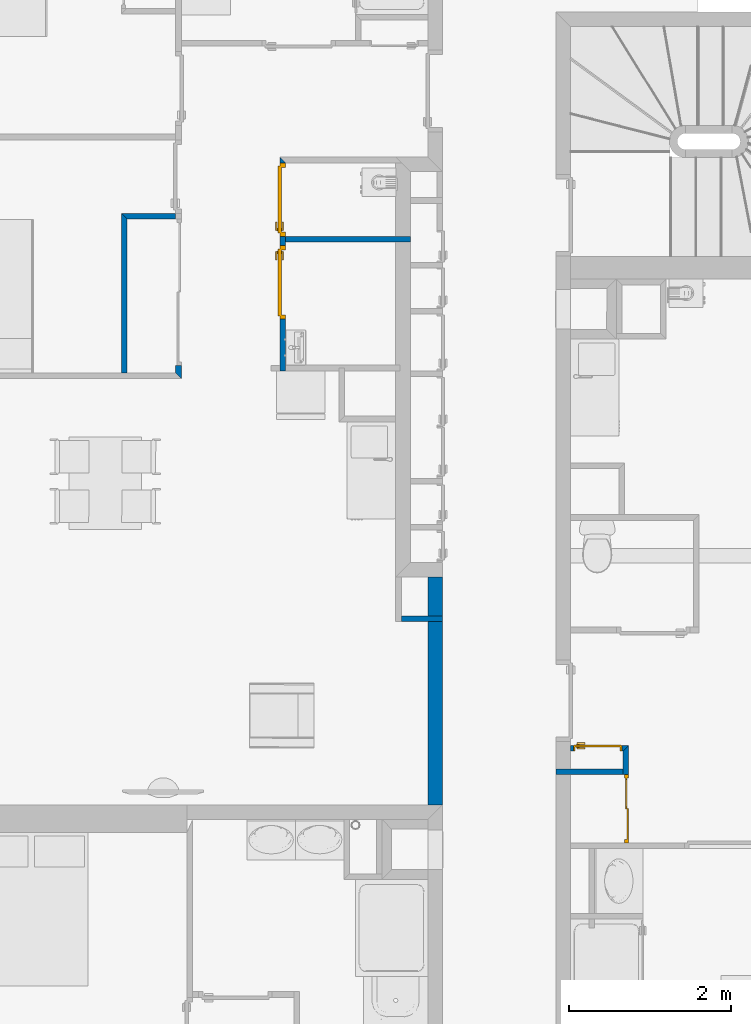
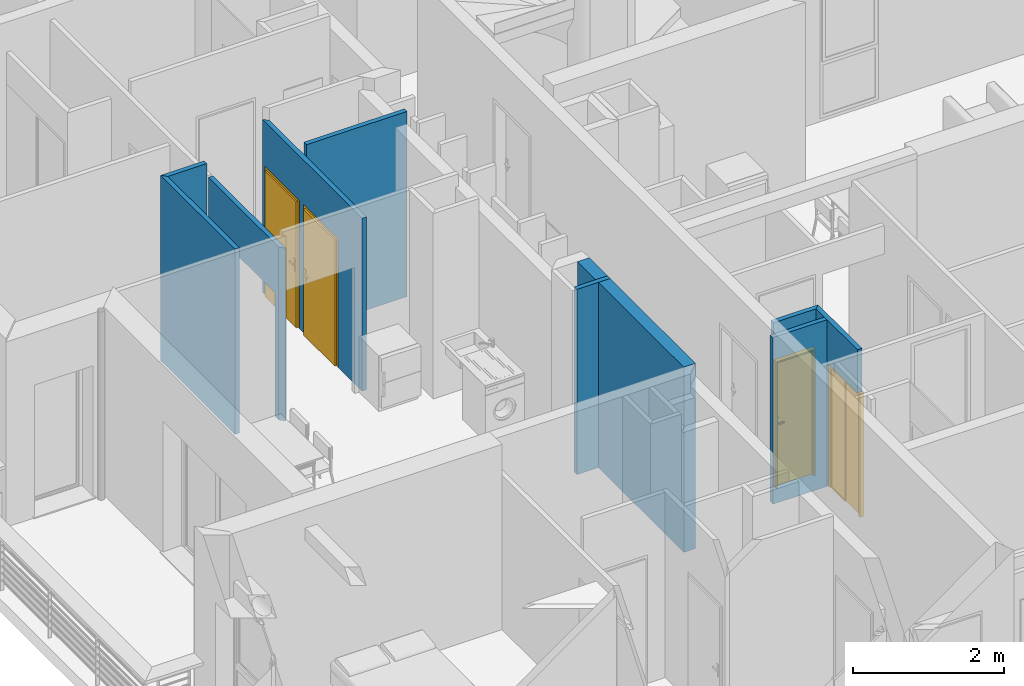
# One storey, part 23 of 165: 10 walls, 4 doors, 5 openings.
"""IFC2X3 building model written with IfcOpenShell, lengths in millimetres."""

from ifc_helpers import new_model, entity, si_unit, converted_unit, derived_unit, money_unit, direction, frame, origin_with_axes, origin_2d_with_axis, place, context, subcontext, project, spatial, polyline, rectangle, outline, extrude, open_shell, faceted_brep, surface_model, source, transform, mapped, material, layer, layer_set, layer_usage, type_object, element, fill, save


model = new_model("IFC2X3")

# Units and contexts
model_context = context("Model", 3, precision=0.01, world=origin_with_axes(), true_north=direction((0.0, 1.0)))
body_context = subcontext(model_context, "Body", "Model", "MODEL_VIEW")
ifc_project = project(units=[si_unit("LENGTHUNIT", "METRE", prefix="MILLI"), si_unit("AREAUNIT", "SQUARE_METRE"), si_unit("VOLUMEUNIT", "CUBIC_METRE"), converted_unit("PLANEANGLEUNIT", "DEGREE", entity("IfcPlaneAngleMeasure", 0.0174532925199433), si_unit("PLANEANGLEUNIT", "RADIAN"), dimensions=[0, 0, 0, 0, 0, 0, 0]), money_unit("USD"), converted_unit("TIMEUNIT", "Year", entity("IfcTimeMeasure", 31557600.0), si_unit("TIMEUNIT", "SECOND"), dimensions=[0, 0, 1, 0, 0, 0, 0]), si_unit("MASSUNIT", "GRAM", prefix="KILO"), si_unit("THERMODYNAMICTEMPERATUREUNIT", "DEGREE_CELSIUS"), si_unit("LUMINOUSINTENSITYUNIT", "LUMEN"), si_unit("ENERGYUNIT", "JOULE", prefix="MEGA"), derived_unit("THERMALCONDUCTANCEUNIT", [(si_unit("POWERUNIT", "WATT"), 1), (si_unit("LENGTHUNIT", "METRE"), -1), (si_unit("THERMODYNAMICTEMPERATUREUNIT", "KELVIN"), -1)]), derived_unit("SPECIFICHEATCAPACITYUNIT", [(si_unit("ENERGYUNIT", "JOULE"), 1), (si_unit("MASSUNIT", "GRAM", prefix="KILO"), -1), (si_unit("THERMODYNAMICTEMPERATUREUNIT", "KELVIN"), -1)]), derived_unit("MASSDENSITYUNIT", [(si_unit("MASSUNIT", "GRAM", prefix="KILO"), 1), (si_unit("VOLUMEUNIT", "CUBIC_METRE"), -1)])], contexts=[model_context])

# Site, building, storey
site_placement = place(None, origin_with_axes())
site = spatial("IfcSite", under=ifc_project, at=site_placement, Name="Site", CompositionType="ELEMENT")
building_placement = place(site_placement, origin_with_axes())
building = spatial("IfcBuilding", under=site, at=building_placement, Name="Bâtiment", CompositionType="ELEMENT")
storey_placement = place(building_placement, frame((0.0, 0.0, 8500.0), z_axis=(0.0, 0.0, 1.0), x_axis=(1.0, 0.0, 0.0)))
storey = spatial("IfcBuildingStorey", under=building, at=storey_placement, Name="Etage 2", CompositionType="ELEMENT", Elevation=8500.0)

# Walls
ifc_material_1 = material(Name="Parpaing 314940890")
ifc_layer_1 = layer(ifc_material_1, 180.0, ventilated="UNKNOWN")
ifc_layer_set_1 = layer_set([ifc_layer_1], Name="Beton  18 0018356637")
ifc_layer_usage_1 = layer_usage(ifc_layer_set_1, "AXIS2", "NEGATIVE", 0.0)
wall_type_1 = type_object("IfcWallType", Name="Beton  18 0018356637 180", PredefinedType="NOTDEFINED")
wall_1_placement = place(storey_placement, frame((2224312.318635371, -641196.739976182, 0.0), z_axis=(0.0, 0.0, 1.0), x_axis=(0.0, -1.0, 0.0)))
element("IfcWallStandardCase", 1, at=wall_1_placement, inside=storey, type_object=wall_type_1, material=ifc_layer_usage_1, Name="Mur-142", context=body_context, shape_type="SweptSolid", body=[
    extrude(outline(polyline([(-0.0004505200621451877, -179.99999999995), (2819.636433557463, -179.99999999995), (2819.636430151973, 0.0), (-2.010409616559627e-07, 0.0), (-0.0004505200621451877, -179.99999999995)])), origin_with_axes(), (0.0, 0.0, 1.0), 3000.0),
])
ifc_material_2 = material(Name="Hachure solide 268963992")
ifc_layer_2 = layer(ifc_material_2, 70.0, ventilated="UNKNOWN")
ifc_layer_set_2 = layer_set([ifc_layer_2], Name="Cloison 70 0826278243")
ifc_layer_usage_2 = layer_usage(ifc_layer_set_2, "AXIS2", "NEGATIVE", 70.0)
wall_type_2 = type_object("IfcWallType", Name="Cloison 70 0826278243 70", PredefinedType="NOTDEFINED")
wall_2_placement = place(storey_placement, frame((2220340.856783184, -636702.9495389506, 0.0), z_axis=(0.0, 0.0, 1.0), x_axis=(1.192534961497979e-05, -0.999999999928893, 0.0)))
element("IfcWallStandardCase", 2, at=wall_2_placement, inside=storey, type_object=wall_type_2, material=ifc_layer_usage_2, Name="Mur-149", context=body_context, shape_type="SweptSolid", body=[
    extrude(outline(polyline([(0.0, 0.0), (1973.85816041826, 0.0), (1973.858995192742, 70.00000000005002), (70.0008509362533, 70.00000000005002), (0.0, 0.0)])), origin_with_axes(), (0.0, 0.0, 1.0), 3000.0),
])

# Wall, opening, door
ifc_layer_usage_3 = layer_usage(ifc_layer_set_2, "AXIS2", "POSITIVE", -70.0)
wall_3_placement = place(storey_placement, frame((2225712.313074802, -643283.0930621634, 0.0), z_axis=(0.0, 0.0, 1.0), x_axis=(0.9999999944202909, -0.0001056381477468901, 0.0)))
wall_3 = element("IfcWallStandardCase", 3, at=wall_3_placement, inside=storey, type_object=wall_type_2, material=ifc_layer_usage_3, Name="Mur-149", context=body_context, shape_type="SweptSolid", body=[
    extrude(outline(polyline([(180.012677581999, -69.99999999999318), (830.1173335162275, -69.99999999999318), (900.1173335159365, 0.0), (180.0052829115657, 0.0), (180.012677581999, -69.99999999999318)])), origin_with_axes(), (0.0, 0.0, 1.0), 2700.0),
])
opening_1_placement = place(wall_3_placement, frame((516.4323291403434, 0.0, 0.0), z_axis=(0.0, 0.0, 1.0), x_axis=(1.0, 0.0, 0.0)))
opening_1 = element("IfcOpeningElement", 4, at=opening_1_placement, cuts=wall_3, Name="Por-274", context=body_context, shape_type="SweptSolid", body=[
    extrude(rectangle(XDim=600.0000000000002, YDim=2050.000000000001, at=origin_2d_with_axis()), frame((-1.13686837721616e-10, -69.99999999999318, 1025.0), z_axis=(0.0, 1.0, 0.0), x_axis=(1.0, 0.0, 0.0)), (0.0, 0.0, 1.0), 140.0),
])
door_style_1 = type_object("IfcDoorStyle", Name="Porte_1v", ConstructionType="NOTDEFINED", OperationType="NOTDEFINED", ParameterTakesPrecedence=False, Sizeable=False)
shared_shape_1 = source(origin_with_axes(), body_context, "Body", "Brep", [
    faceted_brep([(300.0, 0.0, 0.0), (290.0, 0.0, 0.0), (290.0, 0.0, 2040.0), (-290.0, 0.0, 2040.0), (-290.0, 0.0, 0.0), (-300.0, 0.0, 0.0), (-300.0, 0.0, 2050.0), (300.0, 0.0, 2050.0), (300.0, -70.0, 0.0), (279.9999999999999, -70.0, 0.0), (279.9999999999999, -15.0, 0.0), (290.0, -15.0, 0.0), (290.0, -15.0, 2040.0), (-290.0, -15.0, 2040.0), (-290.0, -15.0, 0.0), (-279.9999999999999, -15.0, 0.0), (-279.9999999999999, -70.0, 0.0), (-300.0, -70.0, 0.0), (-300.0, -70.0, 2050.0), (300.0, -70.0, 2050.0), (-279.9999999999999, -70.0, 2030.0), (279.9999999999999, -70.0, 2030.0), (279.9999999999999, -15.0, 2030.0), (-279.9999999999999, -15.0, 2030.0)], [[[0, 1, 2, 3, 4, 5, 6, 7]], [[0, 8, 9, 10, 11, 1]], [[1, 11, 12, 2]], [[2, 12, 13, 3]], [[3, 13, 14, 4]], [[5, 4, 14, 15, 16, 17]], [[18, 6, 5, 17]], [[19, 7, 6, 18]], [[8, 0, 7, 19]], [[9, 8, 19, 18, 17, 16, 20, 21]], [[10, 9, 21, 22]], [[11, 10, 22, 23, 15, 14, 13, 12]], [[23, 20, 16, 15]], [[22, 21, 20, 23]]]),
    faceted_brep([(-224.9999999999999, -15.0, 900.0), (-264.9999999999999, -15.0, 900.0), (-264.9999999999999, -15.0, 1100.0), (-224.9999999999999, -15.0, 1100.0), (-224.9999999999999, -25.0, 900.0), (-264.9999999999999, -25.0, 900.0), (-264.9999999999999, -25.0, 1100.0), (-224.9999999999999, -25.0, 1100.0)], [[[0, 1, 2, 3]], [[1, 0, 4, 5]], [[2, 1, 5, 6]], [[3, 2, 6, 7]], [[0, 3, 7, 4]], [[5, 4, 7, 6]]]),
    faceted_brep([(-154.9999999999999, -25.0, 1000.0), (-254.9999999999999, -25.0, 1000.0), (-254.9999999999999, -25.0, 1020.0), (-154.9999999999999, -25.0, 1020.0), (-154.9999999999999, -45.0, 1000.0), (-254.9999999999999, -45.0, 1000.0), (-254.9999999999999, -45.0, 1020.0), (-154.9999999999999, -45.0, 1020.0)], [[[0, 1, 2, 3]], [[1, 0, 4, 5]], [[2, 1, 5, 6]], [[3, 2, 6, 7]], [[0, 3, 7, 4]], [[5, 4, 7, 6]]]),
    faceted_brep([(-224.9999999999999, 15.0, 900.0), (-264.9999999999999, 15.0, 900.0), (-264.9999999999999, 15.0, 1100.0), (-224.9999999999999, 15.0, 1100.0), (-224.9999999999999, 5.000000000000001, 900.0), (-264.9999999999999, 5.000000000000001, 900.0), (-264.9999999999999, 5.000000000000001, 1100.0), (-224.9999999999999, 5.000000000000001, 1100.0)], [[[0, 1, 2, 3]], [[1, 0, 4, 5]], [[2, 1, 5, 6]], [[3, 2, 6, 7]], [[0, 3, 7, 4]], [[5, 4, 7, 6]]]),
    faceted_brep([(-154.9999999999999, 35.0, 1000.0), (-254.9999999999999, 35.0, 1000.0), (-254.9999999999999, 35.0, 1020.0), (-154.9999999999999, 35.0, 1020.0), (-154.9999999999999, 15.0, 1000.0), (-254.9999999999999, 15.0, 1000.0), (-254.9999999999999, 15.0, 1020.0), (-154.9999999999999, 15.0, 1020.0)], [[[0, 1, 2, 3]], [[1, 0, 4, 5]], [[2, 1, 5, 6]], [[3, 2, 6, 7]], [[0, 3, 7, 4]], [[5, 4, 7, 6]]]),
    faceted_brep([(-290.0, 5.000000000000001, 0.0), (290.0, 5.000000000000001, 0.0), (290.0, -15.0, 0.0), (-290.0, -15.0, 0.0), (-290.0, 5.000000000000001, 2040.0), (290.0, 5.000000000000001, 2040.0), (290.0, -15.0, 2040.0), (-290.0, -15.0, 2040.0)], [[[0, 1, 2, 3]], [[0, 4, 5, 1]], [[1, 5, 6, 2]], [[3, 2, 6, 7]], [[4, 0, 3, 7]], [[5, 4, 7, 6]]]),
])
door_1_placement = place(opening_1_placement, frame((-290.0000000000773, 0.0, 0.0), z_axis=(0.0, 0.0, 1.0), x_axis=(1.0, 0.0, 0.0)))
door_1 = element("IfcDoor", 5, at=door_1_placement, inside=storey, type_object=door_style_1, Name="Por-274", OverallHeight=2040.0, OverallWidth=580.0, context=body_context, shape_type="MappedRepresentation", body=[
    mapped(shared_shape_1, transform((290.0000000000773, 0.0, 0.0))),
])
fill(opening_1, door_1)

# Wall
ifc_layer_usage_4 = layer_usage(ifc_layer_set_2, "AXIS2", "POSITIVE", -70.0)
wall_4_placement = place(storey_placement, frame((2225712.282439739, -643573.0930605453, 0.0), z_axis=(0.0, 0.0, 1.0), x_axis=(0.9999999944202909, -0.0001056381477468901, 0.0)))
element("IfcWallStandardCase", 6, at=wall_4_placement, inside=storey, type_object=wall_type_2, material=ifc_layer_usage_4, Name="Mur-149", context=body_context, shape_type="SweptSolid", body=[
    extrude(outline(polyline([(1.13686837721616e-10, -70.00000000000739), (830.1173335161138, -69.99999999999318), (830.1173335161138, 0.0), (0.0, 0.0), (1.13686837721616e-10, -70.00000000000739)])), origin_with_axes(), (0.0, 0.0, 1.0), 2700.0),
])

# Wall, opening
ifc_layer_usage_5 = layer_usage(ifc_layer_set_2, "AXIS2", "NEGATIVE", 70.0)
wall_5_placement = place(storey_placement, frame((2221010.855948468, -636812.0254064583, 0.0), z_axis=(0.0, 0.0, 1.0), x_axis=(1.304660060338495e-05, -0.9999999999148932, 0.0)))
wall_5 = element("IfcWallStandardCase", 7, at=wall_5_placement, inside=storey, type_object=wall_type_2, material=ifc_layer_usage_5, Name="Mur-149", context=body_context, shape_type="SweptSolid", body=[
    extrude(outline(polyline([(0.0, 0.0), (1864.782292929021, 0.0), (1934.783206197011, 69.99999999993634), (0.0, 69.99999999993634), (0.0, 0.0)])), origin_with_axes(), (0.0, 0.0, 1.0), 2800.0),
])
opening_2_placement = place(wall_5_placement, frame((865.429197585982, -1.13686837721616e-10, 0.0), z_axis=(0.0, 0.0, 1.0), x_axis=(1.0, 0.0, 0.0)))
element("IfcOpeningElement", 8, at=opening_2_placement, cuts=wall_5, Name="Por-321", context=body_context, shape_type="SweptSolid", body=[
    extrude(rectangle(XDim=1809.009820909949, YDim=2000.0, at=origin_2d_with_axis()), frame((0.0, 70.00000000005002, 1000.0), z_axis=(0.0, -1.0, 0.0), x_axis=(1.0, 0.0, 0.0)), (0.0, 0.0, -1.0), 70.0),
    extrude(rectangle(XDim=1809.009820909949, YDim=2000.0, at=origin_2d_with_axis()), frame((0.0, 70.00000000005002, 1000.0), z_axis=(0.0, 1.0, 0.0), x_axis=(1.0, 0.0, 0.0)), (0.0, 0.0, -1.0), 70.0),
])

# Wall, openings, doors
ifc_layer_usage_6 = layer_usage(ifc_layer_set_2, "AXIS2", "POSITIVE", -70.0)
wall_6_placement = place(storey_placement, frame((2222302.398602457, -638652.0255094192, 0.0), z_axis=(0.0, 0.0, 1.0), x_axis=(2.372877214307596e-07, 0.9999999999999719, 0.0)))
wall_6 = element("IfcWallStandardCase", 9, at=wall_6_placement, inside=storey, type_object=wall_type_2, material=ifc_layer_usage_6, Name="Mur-149", context=body_context, shape_type="SweptSolid", body=[
    extrude(outline(polyline([(0.0, -70.00000000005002), (2574.727457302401, -70.00000000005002), (2644.727442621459, 0.0), (0.0, 0.0), (0.0, -70.00000000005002)])), origin_with_axes(), (0.0, 0.0, 1.0), 2800.000000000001),
])
opening_3_placement = place(wall_6_placement, frame((1095.779735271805, 1.13686837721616e-10, 0.0), z_axis=(0.0, 0.0, 1.0), x_axis=(1.0, 0.0, 0.0)))
opening_3 = element("IfcOpeningElement", 10, at=opening_3_placement, cuts=wall_6, Name="Por-278", context=body_context, shape_type="SweptSolid", body=[
    extrude(rectangle(XDim=910.0, YDim=2080.0, at=origin_2d_with_axis()), frame((0.0, -70.00000000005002, 1039.999999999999), z_axis=(0.0, -1.0, 0.0), x_axis=(-1.0, 0.0, 0.0)), (0.0, 0.0, -1.0), 140.0),
])
opening_4_placement = place(wall_6_placement, frame((2119.727458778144, 2.273736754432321e-10, 0.0), z_axis=(0.0, 0.0, 1.0), x_axis=(1.0, 0.0, 0.0)))
opening_4 = element("IfcOpeningElement", 11, at=opening_4_placement, cuts=wall_6, Name="Por-278", context=body_context, shape_type="SweptSolid", body=[
    extrude(rectangle(XDim=910.0, YDim=2080.0, at=origin_2d_with_axis()), frame((0.0, -70.00000000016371, 1039.999999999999), z_axis=(0.0, 1.0, 0.0), x_axis=(1.0, 0.0, 0.0)), (0.0, 0.0, 1.0), 140.0),
])
shared_shape_2 = source(origin_with_axes(), body_context, "Body", "Brep", [
    faceted_brep([(454.9999999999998, 0.0, 0.0), (414.9999999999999, 0.0, 0.0), (414.9999999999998, 0.0, 2040.0), (-414.9999999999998, 0.0, 2040.0), (-414.9999999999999, 0.0, 0.0), (-454.9999999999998, 0.0, 0.0), (-454.9999999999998, 0.0, 2080.0), (454.9999999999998, 0.0, 2080.0), (454.9999999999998, -69.99999999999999, 0.0), (399.9999999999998, -69.99999999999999, 0.0), (399.9999999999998, -15.0, 0.0), (414.9999999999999, -15.0, 0.0), (414.9999999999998, -15.0, 2040.0), (-414.9999999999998, -15.0, 2040.0), (-414.9999999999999, -15.0, 0.0), (-399.9999999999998, -15.0, 0.0), (-399.9999999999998, -69.99999999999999, 0.0), (-454.9999999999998, -69.99999999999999, 0.0), (-454.9999999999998, -69.99999999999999, 2080.0), (454.9999999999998, -69.99999999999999, 2080.0), (-399.9999999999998, -69.99999999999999, 2025.0), (399.9999999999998, -69.99999999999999, 2025.0), (399.9999999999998, -15.0, 2025.0), (-399.9999999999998, -15.0, 2025.0)], [[[0, 1, 2, 3, 4, 5, 6, 7]], [[0, 8, 9, 10, 11, 1]], [[1, 11, 12, 2]], [[2, 12, 13, 3]], [[3, 13, 14, 4]], [[5, 4, 14, 15, 16, 17]], [[18, 6, 5, 17]], [[19, 7, 6, 18]], [[8, 0, 7, 19]], [[9, 8, 19, 18, 17, 16, 20, 21]], [[10, 9, 21, 22]], [[11, 10, 22, 23, 15, 14, 13, 12]], [[23, 20, 16, 15]], [[22, 21, 20, 23]]]),
    faceted_brep([(-349.9999999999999, -15.0, 900.0), (-389.9999999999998, -15.0, 900.0), (-389.9999999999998, -15.0, 1100.0), (-349.9999999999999, -15.0, 1100.0), (-349.9999999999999, -24.99999999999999, 900.0), (-389.9999999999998, -24.99999999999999, 900.0), (-389.9999999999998, -24.99999999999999, 1100.0), (-349.9999999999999, -24.99999999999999, 1100.0)], [[[0, 1, 2, 3]], [[1, 0, 4, 5]], [[2, 1, 5, 6]], [[3, 2, 6, 7]], [[0, 3, 7, 4]], [[5, 4, 7, 6]]]),
    faceted_brep([(-279.9999999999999, -24.99999999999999, 1000.0), (-379.9999999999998, -24.99999999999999, 1000.0), (-379.9999999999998, -24.99999999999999, 1020.0), (-279.9999999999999, -24.99999999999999, 1020.0), (-279.9999999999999, -44.99999999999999, 1000.0), (-379.9999999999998, -44.99999999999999, 1000.0), (-379.9999999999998, -44.99999999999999, 1020.0), (-279.9999999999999, -44.99999999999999, 1020.0)], [[[0, 1, 2, 3]], [[1, 0, 4, 5]], [[2, 1, 5, 6]], [[3, 2, 6, 7]], [[0, 3, 7, 4]], [[5, 4, 7, 6]]]),
    faceted_brep([(-349.9999999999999, 34.99999999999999, 900.0), (-389.9999999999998, 34.99999999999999, 900.0), (-389.9999999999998, 34.99999999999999, 1100.0), (-349.9999999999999, 34.99999999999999, 1100.0), (-349.9999999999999, 24.99999999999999, 900.0), (-389.9999999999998, 24.99999999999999, 900.0), (-389.9999999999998, 24.99999999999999, 1100.0), (-349.9999999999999, 24.99999999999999, 1100.0)], [[[0, 1, 2, 3]], [[1, 0, 4, 5]], [[2, 1, 5, 6]], [[3, 2, 6, 7]], [[0, 3, 7, 4]], [[5, 4, 7, 6]]]),
    faceted_brep([(-279.9999999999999, 54.99999999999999, 1000.0), (-379.9999999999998, 54.99999999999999, 1000.0), (-379.9999999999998, 54.99999999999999, 1020.0), (-279.9999999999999, 54.99999999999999, 1020.0), (-279.9999999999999, 34.99999999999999, 1000.0), (-379.9999999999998, 34.99999999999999, 1000.0), (-379.9999999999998, 34.99999999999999, 1020.0), (-279.9999999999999, 34.99999999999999, 1020.0)], [[[0, 1, 2, 3]], [[1, 0, 4, 5]], [[2, 1, 5, 6]], [[3, 2, 6, 7]], [[0, 3, 7, 4]], [[5, 4, 7, 6]]]),
    faceted_brep([(-414.9999999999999, 24.99999999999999, 0.0), (414.9999999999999, 24.99999999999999, 0.0), (414.9999999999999, -15.0, 0.0), (-414.9999999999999, -15.0, 0.0), (-414.9999999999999, 24.99999999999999, 2040.0), (414.9999999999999, 24.99999999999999, 2040.0), (414.9999999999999, -15.0, 2040.0), (-414.9999999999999, -15.0, 2040.0)], [[[0, 1, 2, 3]], [[0, 4, 5, 1]], [[1, 5, 6, 2]], [[3, 2, 6, 7]], [[4, 0, 3, 7]], [[5, 4, 7, 6]]]),
])
door_2_placement = place(opening_4_placement, frame((-415.0000000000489, 0.0, 0.0), z_axis=(0.0, 0.0, 1.0), x_axis=(1.0, 0.0, 0.0)))
door_2 = element("IfcDoor", 12, at=door_2_placement, inside=storey, type_object=door_style_1, Name="Por-278", OverallHeight=2040.0, OverallWidth=830.0, context=body_context, shape_type="MappedRepresentation", body=[
    mapped(shared_shape_2, transform((415.0000000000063, 0.0, 0.0))),
])
fill(opening_4, door_2)
shared_shape_3 = source(origin_with_axes(), body_context, "Body", "Brep", [
    faceted_brep([(-454.9999999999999, 0.0, 0.0), (-454.9999999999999, 0.0, 2080.0), (454.9999999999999, 0.0, 2080.0), (454.9999999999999, 0.0, 0.0), (415.0, 0.0, 0.0), (414.9999999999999, 0.0, 2040.0), (-414.9999999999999, 0.0, 2040.0), (-415.0, 0.0, 0.0), (-454.9999999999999, -70.0, 0.0), (-454.9999999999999, -70.0, 2080.0), (454.9999999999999, -70.0, 2080.0), (454.9999999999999, -70.0, 0.0), (399.9999999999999, -70.0, 0.0), (399.9999999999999, -15.0, 0.0), (415.0, -15.0, 0.0), (414.9999999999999, -15.0, 2040.0), (-414.9999999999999, -15.0, 2040.0), (-415.0, -15.0, 0.0), (-399.9999999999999, -15.0, 0.0), (-399.9999999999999, -70.0, 0.0), (-399.9999999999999, -70.0, 2025.0), (399.9999999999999, -70.0, 2025.0), (399.9999999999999, -15.0, 2025.0), (-399.9999999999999, -15.0, 2025.0)], [[[0, 1, 2, 3, 4, 5, 6, 7]], [[8, 9, 1, 0]], [[9, 10, 2, 1]], [[10, 11, 3, 2]], [[3, 11, 12, 13, 14, 4]], [[5, 4, 14, 15]], [[6, 5, 15, 16]], [[7, 6, 16, 17]], [[0, 7, 17, 18, 19, 8]], [[19, 20, 21, 12, 11, 10, 9, 8]], [[22, 13, 12, 21]], [[17, 16, 15, 14, 13, 22, 23, 18]], [[18, 23, 20, 19]], [[23, 22, 21, 20]]]),
    faceted_brep([(350.0, -15.0, 900.0), (350.0, -15.0, 1100.0), (389.9999999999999, -15.0, 1100.0), (389.9999999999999, -15.0, 900.0), (350.0, -25.0, 900.0), (350.0, -25.0, 1100.0), (389.9999999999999, -25.0, 1100.0), (389.9999999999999, -25.0, 900.0)], [[[0, 1, 2, 3]], [[0, 4, 5, 1]], [[1, 5, 6, 2]], [[2, 6, 7, 3]], [[3, 7, 4, 0]], [[7, 6, 5, 4]]]),
    faceted_brep([(279.9999999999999, -25.0, 1000.0), (279.9999999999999, -25.0, 1020.0), (379.9999999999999, -25.0, 1020.0), (379.9999999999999, -25.0, 1000.0), (279.9999999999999, -45.0, 1000.0), (279.9999999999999, -45.0, 1020.0), (379.9999999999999, -45.0, 1020.0), (379.9999999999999, -45.0, 1000.0)], [[[0, 1, 2, 3]], [[0, 4, 5, 1]], [[1, 5, 6, 2]], [[2, 6, 7, 3]], [[3, 7, 4, 0]], [[7, 6, 5, 4]]]),
    faceted_brep([(350.0, 35.0, 900.0), (350.0, 35.0, 1100.0), (389.9999999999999, 35.0, 1100.0), (389.9999999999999, 35.0, 900.0), (350.0, 25.0, 900.0), (350.0, 25.0, 1100.0), (389.9999999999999, 25.0, 1100.0), (389.9999999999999, 25.0, 900.0)], [[[0, 1, 2, 3]], [[0, 4, 5, 1]], [[1, 5, 6, 2]], [[2, 6, 7, 3]], [[3, 7, 4, 0]], [[7, 6, 5, 4]]]),
    faceted_brep([(279.9999999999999, 55.00000000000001, 1000.0), (279.9999999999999, 55.00000000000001, 1020.0), (379.9999999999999, 55.00000000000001, 1020.0), (379.9999999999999, 55.00000000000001, 1000.0), (279.9999999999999, 35.0, 1000.0), (279.9999999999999, 35.0, 1020.0), (379.9999999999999, 35.0, 1020.0), (379.9999999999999, 35.0, 1000.0)], [[[0, 1, 2, 3]], [[0, 4, 5, 1]], [[1, 5, 6, 2]], [[2, 6, 7, 3]], [[3, 7, 4, 0]], [[7, 6, 5, 4]]]),
    faceted_brep([(415.0, 25.0, 0.0), (415.0, -15.0, 0.0), (-415.0, -15.0, 0.0), (-415.0, 25.0, 0.0), (415.0, 25.0, 2040.0), (415.0, -15.0, 2040.0), (-415.0, -15.0, 2040.0), (-415.0, 25.0, 2040.0)], [[[0, 1, 2, 3]], [[4, 5, 1, 0]], [[1, 5, 6, 2]], [[3, 2, 6, 7]], [[0, 3, 7, 4]], [[7, 6, 5, 4]]]),
])
door_3_placement = place(opening_3_placement, frame((-415.0000000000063, 0.0, 0.0), z_axis=(0.0, 0.0, 1.0), x_axis=(1.0, 0.0, 0.0)))
door_3 = element("IfcDoor", 13, at=door_3_placement, inside=storey, type_object=door_style_1, Name="Por-278", OverallHeight=2040.0, OverallWidth=830.0, context=body_context, shape_type="MappedRepresentation", body=[
    mapped(shared_shape_3, transform((415.0000000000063, 0.0, 0.0))),
])
fill(opening_3, door_3)

# Walls
ifc_layer_usage_7 = layer_usage(ifc_layer_set_2, "AXIS2", "NEGATIVE", 70.0)
wall_7_placement = place(storey_placement, frame((2221010.854525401, -636702.9496935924, 0.0), z_axis=(0.0, 0.0, 1.0), x_axis=(-0.9999999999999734, 2.308093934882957e-07, 0.0)))
element("IfcWallStandardCase", 14, at=wall_7_placement, inside=storey, type_object=wall_type_2, material=ifc_layer_usage_7, Name="Mur-149", context=body_context, shape_type="SweptSolid", body=[
    extrude(outline(polyline([(-1.13686837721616e-10, 0.0), (669.9977422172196, 0.0), (599.9968912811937, 69.99999999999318), (-0.0009294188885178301, 69.99999999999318), (-1.13686837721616e-10, 0.0)])), origin_with_axes(), (0.0, 0.0, 1.0), 3000.0),
])
ifc_layer_usage_8 = layer_usage(ifc_layer_set_2, "AXIS2", "POSITIVE", -70.0)
wall_8_placement = place(storey_placement, frame((2223912.399953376, -637057.2977132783, 0.0), z_axis=(0.0, 0.0, 1.0), x_axis=(-0.9999999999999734, -2.308105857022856e-07, 0.0)))
element("IfcWallStandardCase", 15, at=wall_8_placement, inside=storey, type_object=wall_type_2, material=ifc_layer_usage_8, Name="Mur-149", context=body_context, shape_type="SweptSolid", body=[
    extrude(outline(polyline([(0.0, -69.99999999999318), (1540.000939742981, -69.99999999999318), (1540.000972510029, 0.0), (0.0, 0.0), (0.0, -69.99999999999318)])), origin_with_axes(), (0.0, 0.0, 1.0), 3000.0),
])

# Wall, opening, door
ifc_layer_usage_9 = layer_usage(ifc_layer_set_2, "AXIS2", "POSITIVE", -70.0)
wall_9_placement = place(storey_placement, frame((2226612.430403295, -643283.1881488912, 0.0), z_axis=(0.0, 0.0, 1.0), x_axis=(-0.0001056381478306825, -0.9999999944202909, 0.0)))
wall_9 = element("IfcWallStandardCase", 16, at=wall_9_placement, inside=storey, type_object=wall_type_2, material=ifc_layer_usage_9, Name="Mur-149", context=body_context, shape_type="SweptSolid", body=[
    extrude(outline(polyline([(69.99999999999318, -69.99999999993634), (1163.34269268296, -69.99999999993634), (1163.34269268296, 0.0), (0.0, 0.0), (69.99999999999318, -69.99999999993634)])), origin_with_axes(), (0.0, 0.0, 1.0), 2700.0),
])
opening_5_placement = place(wall_9_placement, frame((781.671346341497, 0.0, 0.0), z_axis=(0.0, 0.0, 1.0), x_axis=(1.0, 0.0, 0.0)))
opening_5 = element("IfcOpeningElement", 17, at=opening_5_placement, cuts=wall_9, Name="Por-321", context=body_context, shape_type="SweptSolid", body=[
    extrude(rectangle(XDim=843.3426926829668, YDim=2000.0, at=origin_2d_with_axis()), frame((0.0, 0.0, 1000.0), z_axis=(0.0, -1.0, 0.0), x_axis=(1.0, 0.0, 0.0)), (0.0, 0.0, -1.0), 70.0),
    extrude(rectangle(XDim=843.3426926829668, YDim=2000.0, at=origin_2d_with_axis()), frame((0.0, 0.0, 1000.0), z_axis=(0.0, 1.0, 0.0), x_axis=(1.0, 0.0, 0.0)), (0.0, 0.0, -1.0), 70.0),
])
door_style_2 = type_object("IfcDoorStyle", ConstructionType="NOTDEFINED", OperationType="NOTDEFINED", ParameterTakesPrecedence=False, Sizeable=False)
shared_shape_4 = source(origin_with_axes(), body_context, "Body", "SurfaceModel", [
    faceted_brep([(421.6713463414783, 0.0, 0.0), (381.6713463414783, 0.0, 0.0), (381.6713463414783, 0.0, 1960.0), (-381.6713463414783, 0.0, 1960.0), (-381.6713463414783, 0.0, 0.0), (-421.6713463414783, 0.0, 0.0), (-421.6713463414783, 0.0, 2000.0), (421.6713463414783, 0.0, 2000.0), (421.6713463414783, -50.0, 0.0), (381.6713463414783, -50.0, 0.0), (381.6713463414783, -10.0, 0.0), (381.6713463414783, -10.0, 1960.0), (-381.6713463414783, -10.0, 1960.0), (-381.6713463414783, -10.0, 0.0), (-381.6713463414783, -50.0, 0.0), (-421.6713463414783, -50.0, 0.0), (-421.6713463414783, -50.0, 2000.0), (421.6713463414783, -50.0, 2000.0), (-381.6713463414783, -50.0, 1960.0), (381.6713463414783, -50.0, 1960.0)], [[[0, 1, 2, 3, 4, 5, 6, 7]], [[0, 8, 9, 10, 1]], [[1, 10, 11, 2]], [[2, 11, 12, 3]], [[3, 12, 13, 4]], [[5, 4, 13, 14, 15]], [[16, 6, 5, 15]], [[17, 7, 6, 16]], [[8, 0, 7, 17]], [[9, 8, 17, 16, 15, 14, 18, 19]], [[10, 9, 19, 11]], [[11, 19, 18, 12]], [[12, 18, 14, 13]]]),
    faceted_brep([(-381.6713463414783, -20.0, 0.0), (0.0, -20.0, 0.0), (0.0, -40.0, 0.0), (-381.6713463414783, -40.0, 0.0), (-381.6713463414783, -20.0, 1960.0), (0.0, -20.0, 1960.0), (-361.6713463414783, -20.0, 20.0), (-19.99999999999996, -20.0, 20.0), (-19.99999999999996, -20.0, 1940.0), (-361.6713463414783, -20.0, 1940.0), (0.0, -40.0, 1960.0), (-381.6713463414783, -40.0, 1960.0), (-361.6713463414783, -40.0, 20.0), (-361.6713463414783, -40.0, 1940.0), (-19.99999999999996, -40.0, 1940.0), (-19.99999999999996, -40.0, 20.0)], [[[0, 1, 2, 3]], [[0, 4, 5, 1], [6, 7, 8, 9]], [[1, 5, 10, 2]], [[3, 2, 10, 11], [12, 13, 14, 15]], [[4, 0, 3, 11]], [[5, 4, 11, 10]], [[7, 6, 12, 15]], [[8, 7, 15, 14]], [[9, 8, 14, 13]], [[6, 9, 13, 12]]]),
    surface_model("IfcShellBasedSurfaceModel", [(-361.6713463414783, -30.0, 20.0), (-19.99999999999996, -30.0, 20.0), (-19.99999999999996, -30.0, 1940.0), (-361.6713463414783, -30.0, 1940.0)], [open_shell([[[0, 1, 2, 3]]])]),
    faceted_brep([(-5.000000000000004, 0.0, 0.0), (381.6713463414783, 0.0, 0.0), (381.6713463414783, -20.0, 0.0), (-5.000000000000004, -20.0, 0.0), (-5.000000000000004, 0.0, 1960.0), (381.6713463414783, 0.0, 1960.0), (381.6713463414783, -20.0, 1960.0), (-5.000000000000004, -20.0, 1960.0)], [[[0, 1, 2, 3]], [[0, 4, 5, 1]], [[1, 5, 6, 2]], [[3, 2, 6, 7]], [[4, 0, 3, 7]], [[5, 4, 7, 6]]]),
])
door_4_placement = place(opening_5_placement, frame((-421.6713463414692, -2.273736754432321e-10, 0.0), z_axis=(0.0, 0.0, 1.0), x_axis=(1.0, 0.0, 0.0)))
door_4 = element("IfcDoor", 18, at=door_4_placement, inside=storey, type_object=door_style_2, Name="Por-321", OverallHeight=2000.0, OverallWidth=843.343, context=body_context, shape_type="MappedRepresentation", body=[
    mapped(shared_shape_4, transform((421.6713463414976, 1.13686837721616e-10, 0.0))),
])
fill(opening_5, door_4)

# Wall
ifc_layer_usage_10 = layer_usage(ifc_layer_set_2, "AXIS2", "POSITIVE", 0.0)
wall_10_placement = place(storey_placement, frame((2224312.402223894, -641680.3202127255, 0.0), z_axis=(0.0, 0.0, 1.0), x_axis=(-0.9999999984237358, -5.6147381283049e-05, 0.0)))
element("IfcWallStandardCase", 19, at=wall_10_placement, inside=storey, type_object=wall_type_2, material=ifc_layer_usage_10, Name="Mur-121", context=body_context, shape_type="SweptSolid", body=[
    extrude(outline(polyline([(0.0, 0.0), (509.9905632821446, 0.0), (509.9928231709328, 69.99999999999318), (1.13686837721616e-10, 69.99999999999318), (0.0, 0.0)])), origin_with_axes(), (0.0, 0.0, 1.0), 3000.0),
])

save(model, "model.ifc")
